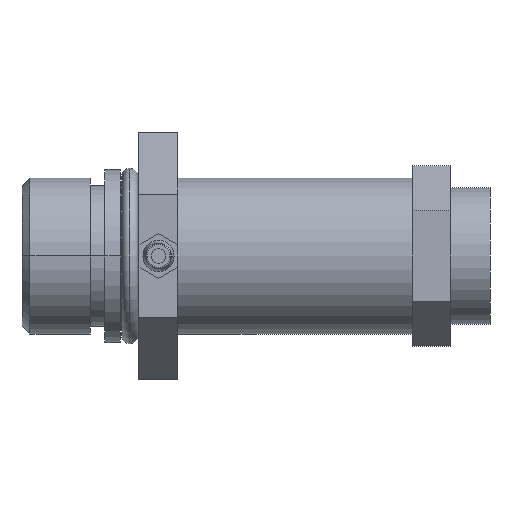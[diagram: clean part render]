
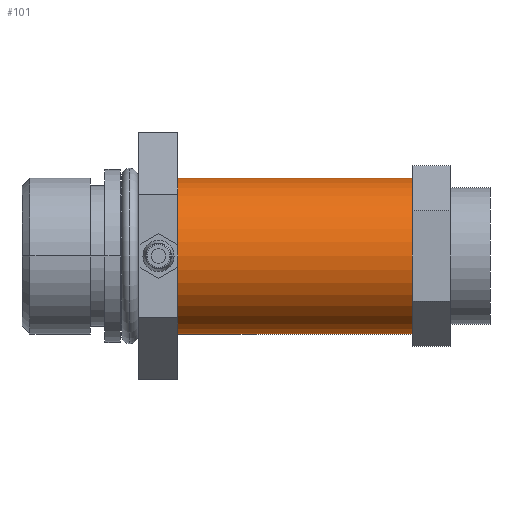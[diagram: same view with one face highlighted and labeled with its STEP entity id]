
A CAD part, front view. The second image highlights one B-rep face of the part: STEP entity #101.
In plain terms, the highlighted cylindrical face has radius 12.7 mm (diameter 25.4 mm), a partial arc.
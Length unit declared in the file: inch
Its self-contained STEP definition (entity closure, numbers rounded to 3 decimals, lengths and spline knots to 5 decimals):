
#31=CARTESIAN_POINT('',(-0.5,0.,0.));
#32=DIRECTION('',(1.,0.,0.));
#33=DIRECTION('',(0.,0.,1.));
#34=AXIS2_PLACEMENT_3D('',#31,#32,#33);
#36=DIRECTION('',(1.,0.,0.));
#37=VECTOR('',#36,1.5);
#38=CARTESIAN_POINT('',(-2.,0.,-0.5));
#39=LINE('',#38,#37);
#40=DIRECTION('',(1.,0.,0.));
#41=VECTOR('',#40,1.5);
#42=CARTESIAN_POINT('',(-2.,0.,0.5));
#43=LINE('',#42,#41);
#44=CARTESIAN_POINT('',(-2.,0.,0.));
#45=DIRECTION('',(-1.,0.,0.));
#46=DIRECTION('',(0.,0.,-1.));
#47=AXIS2_PLACEMENT_3D('',#44,#45,#46);
#54=CARTESIAN_POINT('',(-2.,0.,0.5));
#55=CARTESIAN_POINT('',(-0.5,0.,0.5));
#56=VERTEX_POINT('',#54);
#57=VERTEX_POINT('',#55);
#58=CARTESIAN_POINT('',(-2.,0.,-0.5));
#59=CARTESIAN_POINT('',(-0.5,0.,-0.5));
#60=VERTEX_POINT('',#58);
#61=VERTEX_POINT('',#59);
#89=CARTESIAN_POINT('',(-2.,0.,0.));
#90=DIRECTION('',(1.,0.,0.));
#91=DIRECTION('',(0.,0.,-1.));
#92=AXIS2_PLACEMENT_3D('',#89,#90,#91);
#93=CYLINDRICAL_SURFACE('',#92,0.5);
#94=ORIENTED_EDGE('',*,*,#84,.T.);
#95=ORIENTED_EDGE('',*,*,#73,.F.);
#97=ORIENTED_EDGE('',*,*,#96,.T.);
#98=ORIENTED_EDGE('',*,*,#69,.T.);
#99=EDGE_LOOP('',(#94,#95,#97,#98));
#100=FACE_OUTER_BOUND('',#99,.F.);
#35=CIRCLE('',#34,0.5);
#48=CIRCLE('',#47,0.5);
#69=EDGE_CURVE('',#56,#57,#43,.T.);
#73=EDGE_CURVE('',#60,#61,#39,.T.);
#84=EDGE_CURVE('',#57,#61,#35,.T.);
#96=EDGE_CURVE('',#60,#56,#48,.T.);
#101=ADVANCED_FACE('',(#100),#93,.T.);
